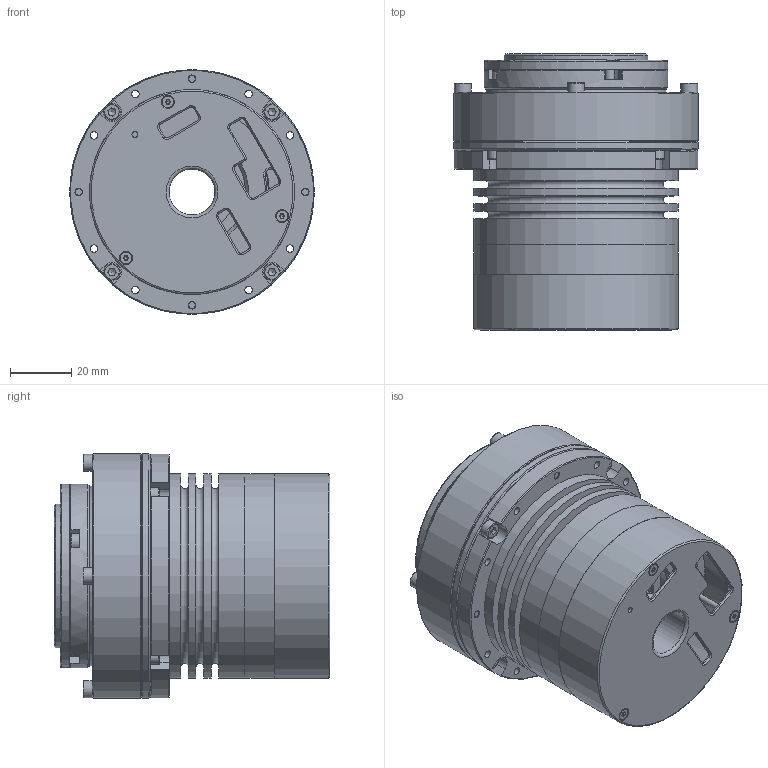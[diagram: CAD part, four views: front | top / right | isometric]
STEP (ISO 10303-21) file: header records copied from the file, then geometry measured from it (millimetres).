
FILE_DESCRIPTION (( 'STEP AP203' ), '1' );
FILE_NAME ('RH-17-100-E-N-D.STEP', '2026-01-08T09:26:10', ( '' ), ( '' ), 'SwSTEP 2.0', 'SolidWorks 2020', '' );
FILE_SCHEMA (( 'CONFIG_CONTROL_DESIGN' ));
Length unit declared in the file: millimetre
Products named in the file (11): GB╱T 2673.1-2018[内六角花形沉头螺钉M2-M4M3×10]_M3×10; M2x5+3-V1; 8MT.034.002（RH-17 机座）; 8MT.013.050（RH-17 减速机密封盖-双编）_Default<按加工>; RH-17-100-E-N-D; GB╱T 70.1-2008[内六角圆柱头螺钉M3×25]_M3×25; 8MT.215.017（RH-17 细圆柱头螺钉M2.5x8）_M2.5x8  10.9级黑; GB╱T 2673.1-2018[内六角花形沉头螺钉M2-M4M2×20]_M2×20; WHS-17-XX-I_Default<偌樓馱>; 8MT.013.060（RH-17 驱动器盖-ECAT）; 8MT.013.005（RH-17 端盖）
Assembly tree (16 placements, depth 2):
  RH-17-100-E-N-D
    8MT.034.002（RH-17 机座）
    M2x5+3-V1
    8MT.013.060（RH-17 驱动器盖-ECAT）
    8MT.013.005（RH-17 端盖）
    8MT.013.050（RH-17 减速机密封盖-双编）_Default<按加工>
    8MT.215.017（RH-17 细圆柱头螺钉M2.5x8）_M2.5x8  10.9级黑
    WHS-17-XX-I_Default<偌樓馱>
    GB╱T 70.1-2008[内六角圆柱头螺钉M3×25]_M3×25  x4
    GB╱T 2673.1-2018[内六角花形沉头螺钉M2-M4M3×10]_M3×10  x2
    GB╱T 2673.1-2018[内六角花形沉头螺钉M2-M4M2×20]_M2×20  x3
Bounding box: 80 x 90.2 x 80 mm (x, y, z)
Volume: 169918.3 mm3; surface area: 120092.8 mm2
Topology: 33 solids, 33 shells, 994 faces, 2421 edges, 1553 vertices
Faces by surface type: cylinder 415, plane 351, cone 175, torus 45, bspline 8
Full cylindrical faces by diameter (mm): 1.6 x16, 1.742 x3, 1.9 x1, 2 x4, 2.05 x3, 2.4 x9, 2.5 x40, 2.677 x2, 2.9 x6, 3 x36, 3.4 x30, 3.5 x36, 3.8 x4, 4 x6, 4.3 x6, 4.4 x3, 5.5 x12, 15 x2, 17 x2, 18 x2, 28 x2, 29.2 x1, 30.3 x2, 32 x1, 32.7 x1, 32.8 x2, 35 x1, 36 x1, 37 x3, 39.222 x2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
Entity records: 25202 total; most frequent: CARTESIAN_POINT 4519, DIRECTION 4245, ORIENTED_EDGE 3236, AXIS2_PLACEMENT_3D 1835, EDGE_CURVE 1618, EDGE_LOOP 1593, VERTEX_POINT 1251, FACE_OUTER_BOUND 1166
